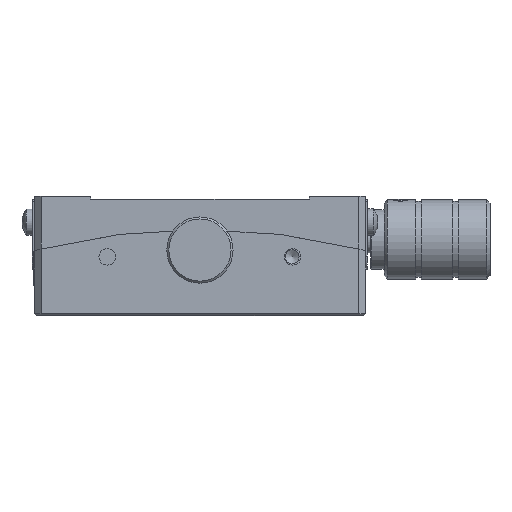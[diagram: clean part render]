
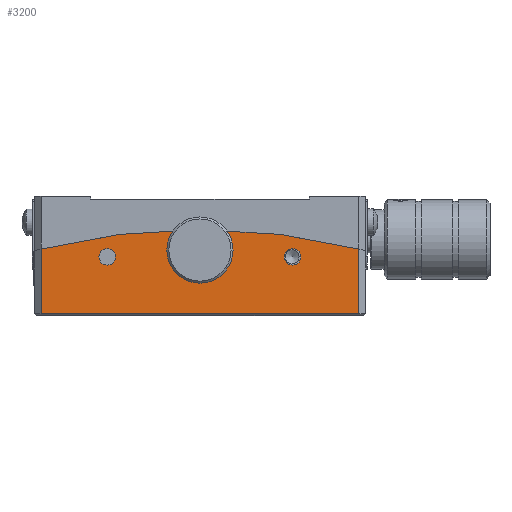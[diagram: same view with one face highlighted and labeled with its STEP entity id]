
A CAD part, front view. The second image highlights one B-rep face of the part: STEP entity #3200.
In plain terms, the highlighted planar face has unit normal (0, -1, 0).
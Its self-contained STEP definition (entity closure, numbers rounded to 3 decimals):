
#455 = DIRECTION ( 'NONE',  ( 0., -1., 0. ) ) ;
#495 = LINE ( 'NONE', #3951, #22897 ) ;
#851 = CIRCLE ( 'NONE', #19789, 99. ) ;
#895 = ORIENTED_EDGE ( 'NONE', *, *, #5035, .F. ) ;
#1175 = DIRECTION ( 'NONE',  ( 0., 0., -1. ) ) ;
#1282 = VERTEX_POINT ( 'NONE', #20952 ) ;
#1410 = DIRECTION ( 'NONE',  ( 0., -1., 0. ) ) ;
#1763 = LINE ( 'NONE', #3667, #5502 ) ;
#1869 = LINE ( 'NONE', #9089, #12752 ) ;
#2067 = FACE_OUTER_BOUND ( 'NONE', #12581, .T. ) ;
#2306 = FACE_BOUND ( 'NONE', #14021, .T. ) ;
#3075 = AXIS2_PLACEMENT_3D ( 'NONE', #19890, #1410, #14194 ) ;
#3112 = ORIENTED_EDGE ( 'NONE', *, *, #7077, .F. ) ;
#3200 = ADVANCED_FACE ( 'NONE', ( #12851, #22198, #2306, #2067 ), #12963, .T. ) ;
#3667 = CARTESIAN_POINT ( 'NONE',  ( -24., -25., -99. ) ) ;
#3951 = CARTESIAN_POINT ( 'NONE',  ( 0., -25., 86.3 ) ) ;
#4336 = EDGE_CURVE ( 'NONE', #6377, #8568, #851, .T. ) ;
#4971 = VERTEX_POINT ( 'NONE', #5213 ) ;
#5035 = EDGE_CURVE ( 'NONE', #1282, #1282, #18587, .T. ) ;
#5162 = ORIENTED_EDGE ( 'NONE', *, *, #16696, .T. ) ;
#5213 = CARTESIAN_POINT ( 'NONE',  ( 0., -25., 97.15 ) ) ;
#5338 = CARTESIAN_POINT ( 'NONE',  ( 0., -25., 0. ) ) ;
#5502 = VECTOR ( 'NONE', #8990, 1000. ) ;
#5580 = DIRECTION ( 'NONE',  ( 0., 0., 1. ) ) ;
#5633 = DIRECTION ( 'NONE',  ( 0., 0., 1. ) ) ;
#5720 = ORIENTED_EDGE ( 'NONE', *, *, #22283, .F. ) ;
#6377 = VERTEX_POINT ( 'NONE', #11683 ) ;
#7077 = EDGE_CURVE ( 'NONE', #4971, #4971, #14783, .T. ) ;
#7745 = DIRECTION ( 'NONE',  ( 0., -1., 0. ) ) ;
#7879 = ORIENTED_EDGE ( 'NONE', *, *, #13785, .T. ) ;
#8259 = VERTEX_POINT ( 'NONE', #13824 ) ;
#8568 = VERTEX_POINT ( 'NONE', #18865 ) ;
#8887 = DIRECTION ( 'NONE',  ( 0., 1., 0. ) ) ;
#8990 = DIRECTION ( 'NONE',  ( 0., 0., -1. ) ) ;
#9089 = CARTESIAN_POINT ( 'NONE',  ( 24., -25., -99. ) ) ;
#9413 = CARTESIAN_POINT ( 'NONE',  ( 0., -25., -99. ) ) ;
#9637 = VERTEX_POINT ( 'NONE', #16003 ) ;
#9953 = AXIS2_PLACEMENT_3D ( 'NONE', #9413, #7745, #5633 ) ;
#11683 = CARTESIAN_POINT ( 'NONE',  ( -24., -25., 96.047 ) ) ;
#11869 = AXIS2_PLACEMENT_3D ( 'NONE', #18834, #17156, #20723 ) ;
#12581 = EDGE_LOOP ( 'NONE', ( #5162, #22953, #7879, #22484 ) ) ;
#12752 = VECTOR ( 'NONE', #16421, 1000. ) ;
#12851 = FACE_BOUND ( 'NONE', #19264, .T. ) ;
#12963 = PLANE ( 'NONE',  #9953 ) ;
#13190 = EDGE_LOOP ( 'NONE', ( #5720 ) ) ;
#13785 = EDGE_CURVE ( 'NONE', #9637, #8568, #1869, .T. ) ;
#13824 = CARTESIAN_POINT ( 'NONE',  ( -14., -25., 96.123 ) ) ;
#14011 = AXIS2_PLACEMENT_3D ( 'NONE', #21911, #455, #5580 ) ;
#14021 = EDGE_LOOP ( 'NONE', ( #3112 ) ) ;
#14038 = CARTESIAN_POINT ( 'NONE',  ( -24., -25., 86.3 ) ) ;
#14194 = DIRECTION ( 'NONE',  ( 0., 0., 1. ) ) ;
#14783 = CIRCLE ( 'NONE', #14011, 1.25 ) ;
#16003 = CARTESIAN_POINT ( 'NONE',  ( 24., -25., 86.3 ) ) ;
#16289 = EDGE_CURVE ( 'NONE', #20969, #9637, #495, .T. ) ;
#16421 = DIRECTION ( 'NONE',  ( 0., 0., 1. ) ) ;
#16696 = EDGE_CURVE ( 'NONE', #6377, #20969, #1763, .T. ) ;
#17156 = DIRECTION ( 'NONE',  ( 0., -1., 0. ) ) ;
#18587 = CIRCLE ( 'NONE', #3075, 1.25 ) ;
#18834 = CARTESIAN_POINT ( 'NONE',  ( -14., -25., 94.873 ) ) ;
#18865 = CARTESIAN_POINT ( 'NONE',  ( 24., -25., 96.047 ) ) ;
#19062 = CIRCLE ( 'NONE', #11869, 1.25 ) ;
#19264 = EDGE_LOOP ( 'NONE', ( #895 ) ) ;
#19789 = AXIS2_PLACEMENT_3D ( 'NONE', #5338, #8887, #1175 ) ;
#19890 = CARTESIAN_POINT ( 'NONE',  ( 14., -25., 94.873 ) ) ;
#20723 = DIRECTION ( 'NONE',  ( 0., 0., 1. ) ) ;
#20952 = CARTESIAN_POINT ( 'NONE',  ( 14., -25., 96.123 ) ) ;
#20969 = VERTEX_POINT ( 'NONE', #14038 ) ;
#21911 = CARTESIAN_POINT ( 'NONE',  ( 0., -25., 95.9 ) ) ;
#22198 = FACE_BOUND ( 'NONE', #13190, .T. ) ;
#22283 = EDGE_CURVE ( 'NONE', #8259, #8259, #19062, .T. ) ;
#22484 = ORIENTED_EDGE ( 'NONE', *, *, #4336, .F. ) ;
#22522 = DIRECTION ( 'NONE',  ( 1., 0., 0. ) ) ;
#22897 = VECTOR ( 'NONE', #22522, 1000. ) ;
#22953 = ORIENTED_EDGE ( 'NONE', *, *, #16289, .T. ) ;
